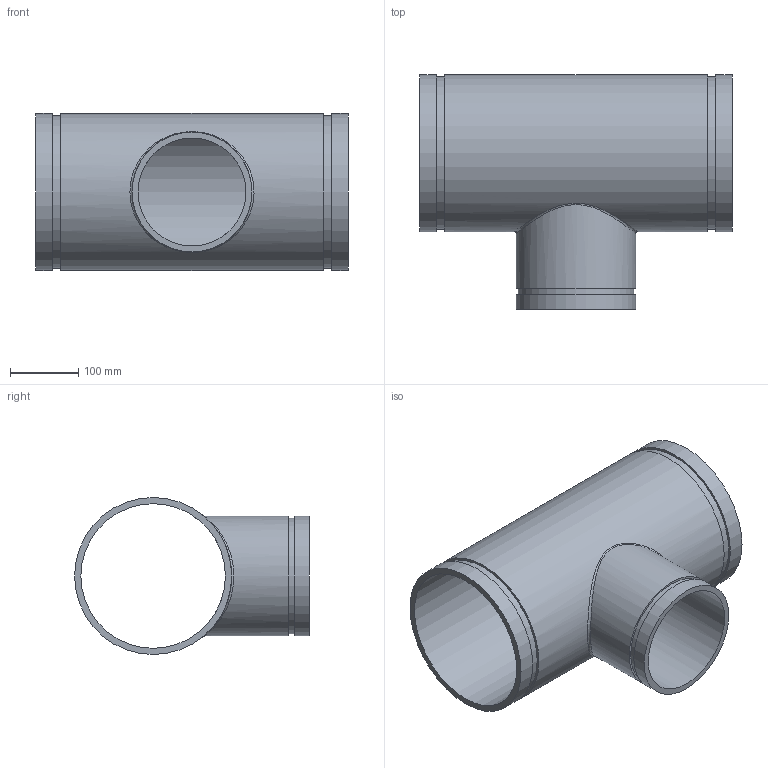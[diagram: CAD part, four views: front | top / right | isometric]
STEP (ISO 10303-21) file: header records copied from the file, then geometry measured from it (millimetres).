
FILE_DESCRIPTION(/* description */ ('VIC REDUCING TEE No 25-C','CAx-IF Rec.Pracs.---Representation and Presentation of Product Manufacturing Information (PMI)---4.0---2014-10-13'),/* implementation_level */ '2;1');
FILE_NAME(/* name */ 'C:\Users\Vjadhav\AppData\Roaming\Autodesk\ApplicationPlugins\Back Up\Victaulic_AWWA_Tee Reducing_No 25-C (DRG)\Victaulic_AWWA_Tee Reducing_No 25-C (DRG)_08.0x06.0 (200x150).stp',/* time_stamp */ '2020-08-18T18:17:48+06:00',/* author */ ('CORINNE GRAY'),/* organization */ ('Victaulic'),/* preprocessor_version */ 'ST-DEVELOPER v17.2',/* originating_system */ 'Autodesk Inventor 2019',/* authorisation */ '');
FILE_SCHEMA (('AP242_MANAGED_MODEL_BASED_3D_ENGINEERING_MIM_LF { 1 0 10303 442 1 1 4 }'));
Length unit declared in the file: inch
Products named in the file (1): 25C-08.0x06.0
Bounding box: 457.2 x 343.54 x 229.87 mm (x, y, z)
Volume: 3219378.7 mm3; surface area: 757898.7 mm2
Topology: 1 solids, 1 shells, 20 faces, 44 edges, 33 vertices
Faces by surface type: cylinder 10, plane 9, bspline 1
Full cylindrical faces by diameter (mm): 157.988 x1, 169.062 x1, 175.26 x2, 211.582 x1, 223.037 x2, 229.87 x3
Entity records: 1059 total; most frequent: CARTESIAN_POINT 435, DIRECTION 135, ORIENTED_EDGE 90, AXIS2_PLACEMENT_3D 62, EDGE_CURVE 45, VERTEX_POINT 34, EDGE_LOOP 31, CIRCLE 29
